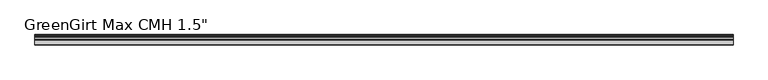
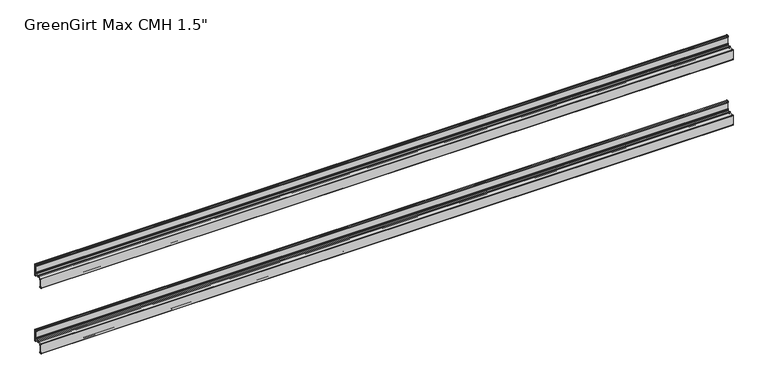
"""IFC4 building model written with IfcOpenShell, lengths in millimetres: fastener geometry."""

import ifcopenshell
import ifcopenshell.guid

model = None  # the IFC model being written
_history = None  # IfcOwnerHistory: only IFC2X3 demands one
_inside = {}  # id of a spatial element -> (the spatial element, [elements in it])
_under = {}  # id of a project, library or spatial element -> (it, [spatial elements below it])
_declared = {}  # id of a project -> (the project, [libraries it declares])
_typed = {}  # id of a type object -> (the type object, [elements of that type])
_made_of = {}  # id of a material, layer set ... -> (it, [elements and type objects made of it])


def new_model(schema):
    """Start an empty IFC model of exactly this schema.

    Asked for "IFC4X3", IfcOpenShell would pick the latest addendum, in which some entities
    have other attributes; the version numbers below select the first issue.
    IFC2X3 requires an IfcOwnerHistory on every rooted entity: one is made here for all.
    """
    global model, _history
    if schema == "IFC4X3":
        model = ifcopenshell.file(schema_version=(4, 3, 0, 0))
    else:
        model = ifcopenshell.file(schema=schema)
    _inside.clear()
    _under.clear()
    _declared.clear()
    _typed.clear()
    _made_of.clear()
    _history = None
    if model.schema == "IFC2X3":
        org = make("IfcOrganization", Name="unknown")
        user = make(
            "IfcPersonAndOrganization",
            ThePerson=make("IfcPerson", FamilyName="unknown"),
            TheOrganization=org,
        )
        app = make(
            "IfcApplication",
            ApplicationDeveloper=org,
            Version="unknown",
            ApplicationFullName="unknown",
            ApplicationIdentifier="unknown",
        )
        _history = make(
            "IfcOwnerHistory",
            OwningUser=user,
            OwningApplication=app,
            ChangeAction="ADDED",
            CreationDate=0,
        )
    return model


def make(cls, **values):
    """One entity of the class cls with the attributes given. An attribute that is None is left unset."""
    return model.create_entity(
        cls, **{name: value for name, value in values.items() if value is not None}
    )


def rooted(cls, **values):
    """An entity with a GlobalId (a new one), such as an element, a storey or a relation."""
    return make(cls, GlobalId=ifcopenshell.guid.new(), OwnerHistory=_history, **values)


def si_unit(unit_type, name, prefix=None):
    """IfcSIUnit, for example si_unit("LENGTHUNIT", "METRE", prefix="MILLI")."""
    return make("IfcSIUnit", UnitType=unit_type, Prefix=prefix, Name=name)


def assignment(units):
    """IfcUnitAssignment: the units of a project."""
    return None if units is None else make("IfcUnitAssignment", Units=units)


def point(xyz):
    """IfcCartesianPoint."""
    return None if xyz is None else make("IfcCartesianPoint", Coordinates=xyz)


def direction(xyz):
    """IfcDirection."""
    return None if xyz is None else make("IfcDirection", DirectionRatios=xyz)


def frame(location, z_axis=None, x_axis=None):
    """IfcAxis2Placement3D, a coordinate frame: its origin and axes. An axis left out is left unset."""
    return make(
        "IfcAxis2Placement3D",
        Location=point(location),
        Axis=direction(z_axis),
        RefDirection=direction(x_axis),
    )


def origin():
    """The frame at (0, 0, 0) with its axes left unset."""
    return frame((0.0, 0.0, 0.0))


def place(relative_to, where):
    """IfcLocalPlacement: puts the frame where relative to a parent placement (None: the world)."""
    return make(
        "IfcLocalPlacement", PlacementRelTo=relative_to, RelativePlacement=where
    )


def context(
    kind, dimensions, precision=None, world=None, true_north=None, identifier=None
):
    """IfcGeometricRepresentationContext, for example the 3D "Model" context."""
    return make(
        "IfcGeometricRepresentationContext",
        ContextIdentifier=identifier,
        ContextType=kind,
        CoordinateSpaceDimension=dimensions,
        Precision=precision,
        WorldCoordinateSystem=world,
        TrueNorth=true_north,
    )


def project(units=None, contexts=None):
    """IfcProject with its units and contexts."""
    return rooted(
        "IfcProject",
        Name="project",
        RepresentationContexts=contexts,
        UnitsInContext=assignment(units),
    )


def spatial(cls, under=None, at=None, **own):
    """A site, building, storey or space (cls), placed at a placement, below another one or the project."""
    s = rooted(cls, ObjectPlacement=at, **own)
    if under is not None:
        _under.setdefault(under.id(), (under, []))[1].append(s)
    return s


def polyline(points):
    """IfcPolyline through the points."""
    return make("IfcPolyline", Points=[point(p) for p in points])


def circle_curve(where, radius):
    """IfcCircle in the frame where."""
    return make("IfcCircle", Position=where, Radius=radius)


def outline(outer, holes=None, kind="AREA"):
    """IfcArbitraryClosedProfileDef: a profile drawn as a closed curve; with holes, ...WithVoids."""
    if holes is None:
        return make("IfcArbitraryClosedProfileDef", ProfileType=kind, OuterCurve=outer)
    return make(
        "IfcArbitraryProfileDefWithVoids",
        ProfileType=kind,
        OuterCurve=outer,
        InnerCurves=holes,
    )


def extrude(swept, where, along, depth):
    """IfcExtrudedAreaSolid: the profile swept, set in the frame where, extruded along a direction by depth."""
    return make(
        "IfcExtrudedAreaSolid",
        SweptArea=swept,
        Position=where,
        ExtrudedDirection=direction(along),
        Depth=depth,
    )


def shape(context_of_items, identifier, shape_type, items):
    """IfcShapeRepresentation: the items that make up one representation, for example the "Body"."""
    return make(
        "IfcShapeRepresentation",
        ContextOfItems=context_of_items,
        RepresentationIdentifier=identifier,
        RepresentationType=shape_type,
        Items=items,
    )


def source(mapping_origin, context_of_items, identifier, shape_type, items):
    """IfcRepresentationMap: a shape defined once, which mapped items show again and again."""
    return make(
        "IfcRepresentationMap",
        MappingOrigin=mapping_origin,
        MappedRepresentation=shape(context_of_items, identifier, shape_type, items),
    )


def transform(
    local_origin,
    x_axis=None,
    y_axis=None,
    z_axis=None,
    scale=None,
    scale2=None,
    scale3=None,
    uniform=True,
):
    """IfcCartesianTransformationOperator3D, or its non-uniform kind. x_axis, y_axis, z_axis: its Axis1, 2, 3."""
    if uniform:
        return make(
            "IfcCartesianTransformationOperator3D",
            Axis1=direction(x_axis),
            Axis2=direction(y_axis),
            LocalOrigin=point(local_origin),
            Scale=scale,
            Axis3=direction(z_axis),
        )
    return make(
        "IfcCartesianTransformationOperator3DnonUniform",
        Axis1=direction(x_axis),
        Axis2=direction(y_axis),
        LocalOrigin=point(local_origin),
        Scale=scale,
        Axis3=direction(z_axis),
        Scale2=scale2,
        Scale3=scale3,
    )


def mapped(mapping_source, mapping_target):
    """IfcMappedItem: shows the shape of a source again, moved by a transform."""
    return make(
        "IfcMappedItem", MappingSource=mapping_source, MappingTarget=mapping_target
    )


def made_of(thing, what):
    """Note that an element or type object is made of a material, layer set ...; save() writes the relation."""
    if what is not None:
        _made_of.setdefault(what.id(), (what, []))[1].append(thing)
    return thing


def element(
    cls,
    number,
    at=None,
    inside=None,
    cuts=None,
    type_object=None,
    material=None,
    context=None,
    identifier="Body",
    shape_type=None,
    held_by="IfcProductDefinitionShape",
    body=None,
    shapes=None,
    **own,
):
    """One element of the class cls, such as IfcWall. Its Tag is "e" and its number.

    at: its placement. inside: the storey or other place that contains it. cuts: it is an
    opening in that element (IfcRelVoidsElement). A single representation is given by context,
    identifier, shape_type and body (its items); several are given by shapes. held_by: the class
    of the entity that holds the representations. save() writes the other relations.
    """
    e = rooted(cls, Tag="e%d" % number, ObjectPlacement=at, **own)
    if body is not None:
        shapes = [shape(context, identifier, shape_type, body)]
    if shapes is not None:
        e.Representation = make(held_by, Representations=shapes)
    if inside is not None:
        _inside.setdefault(inside.id(), (inside, []))[1].append(e)
    if cuts is not None:
        rooted(
            "IfcRelVoidsElement", RelatingBuildingElement=cuts, RelatedOpeningElement=e
        )
    if type_object is not None:
        _typed.setdefault(type_object.id(), (type_object, []))[1].append(e)
    return made_of(e, material)


def aggregate(whole, parts):
    """IfcRelAggregates: a whole, such as a stair, and the parts it consists of."""
    return rooted("IfcRelAggregates", RelatingObject=whole, RelatedObjects=parts)


def save(model, path):
    """Write the relations noted so far, then the file.

    IfcRelAggregates (storeys below a building ...), IfcRelContainedInSpatialStructure (elements
    in a storey), IfcRelDefinesByType, IfcRelAssociatesMaterial and IfcRelDeclares: one each for
    every whole, place, type object, material and project.
    """
    for whole, parts in _under.values():
        aggregate(whole, parts)
    for where, things in _inside.values():
        rooted(
            "IfcRelContainedInSpatialStructure",
            RelatedElements=things,
            RelatingStructure=where,
        )
    for kind, things in _typed.values():
        rooted("IfcRelDefinesByType", RelatedObjects=things, RelatingType=kind)
    for what, things in _made_of.values():
        rooted("IfcRelAssociatesMaterial", RelatedObjects=things, RelatingMaterial=what)
    for by, libraries in _declared.values():
        rooted("IfcRelDeclares", RelatingContext=by, RelatedDefinitions=libraries)
    model.write(path)


def plane_surface(at):
    """IfcPlane: the flat surface through the origin of the frame at, square to its z axis."""
    return make("IfcPlane", Position=at)


def cylinder_surface(at, radius):
    """IfcCylindricalSurface: all points at the distance radius from the z axis of the frame at."""
    return make("IfcCylindricalSurface", Position=at, Radius=radius)


def revolved_surface(curve, axis_point, axis_direction):
    """IfcSurfaceOfRevolution: the curve turned about the line through axis_point along axis_direction."""
    return make(
        "IfcSurfaceOfRevolution",
        SweptCurve=make("IfcArbitraryOpenProfileDef", ProfileType="CURVE", Curve=curve),
        AxisPosition=make("IfcAxis1Placement", Location=point(axis_point), Axis=direction(axis_direction)),
    )


def advanced_brep(points, edges, surfaces, faces):
    """IfcAdvancedBrep: a solid bounded by faces that lie on surfaces and meet in shared edges.

    An edge is (start, end): straight between two places in points (the first is 0);
    or (start, end, curve); or (start, end, curve, False) where it runs against its curve.
    A face is (place in surfaces, loops), or (place, loops, False) where it looks against
    its surface's normal. A loop lists edges by number (the first is 1), with a minus sign
    where the edge is run from its end to its start. The first loop is the outer one.
    """
    corners = [point(p) for p in points]
    vertices = [make("IfcVertexPoint", VertexGeometry=c) for c in corners]
    made = []
    for start, end, *more in edges:
        made.append(
            make(
                "IfcEdgeCurve",
                EdgeStart=vertices[start],
                EdgeEnd=vertices[end],
                EdgeGeometry=more[0] if more else make("IfcPolyline", Points=[corners[start], corners[end]]),
                SameSense=more[1] if len(more) > 1 else True,
            )
        )
    hull = []
    for where, loops, *sense in faces:
        bounds = []
        for j, loop in enumerate(loops):
            ring = [make("IfcOrientedEdge", EdgeElement=made[abs(k) - 1], Orientation=k > 0) for k in loop]
            bounds.append(
                make(
                    "IfcFaceOuterBound" if j == 0 else "IfcFaceBound",
                    Bound=make("IfcEdgeLoop", EdgeList=ring),
                    Orientation=True,
                )
            )
        hull.append(make("IfcAdvancedFace", Bounds=bounds, FaceSurface=surfaces[where], SameSense=sense[0] if sense else True))
    return make("IfcAdvancedBrep", Outer=make("IfcClosedShell", CfsFaces=hull))


def fastener_bf1eb5b9(model_context):
    return source(origin(), model_context, "Body", "SolidModel", [
        advanced_brep(
        [(2540.1186361, -3.556, 1898.269), (2540.1186361, -3.556, 1867.281), (2540.1186361, -5.2832, 1867.281), (2540.1186361, -5.2832, 1871.472), (2540.1186361, -7.3152, 1871.472), (2540.1186361, -7.3152, 1867.281), (2540.1186361, -8.0772, 1866.519), (2540.1186361, -17.7601563, 1866.519), (2540.1186361, -17.7601563, 1867.3674433), (2540.1186361, -20.4288947, 1867.3674433), (2540.1186361, -20.4288947, 1866.519), (2540.1186361, -37.3379766, 1866.519), (2540.1186361, -38.0999766, 1865.757), (2540.1186361, -38.1, 1829.5196758), (2540.1186361, -37.3379766, 1828.8), (2540.1186361, -33.7057766, 1828.8), (2540.1186361, -31.6737766, 1830.832), (2540.1186361, -31.6737766, 1833.118), (2540.1186361, -33.7057766, 1833.118), (2540.1186361, -33.7057766, 1832.102), (2540.1186361, -35.4329766, 1832.102), (2540.1186361, -35.4329766, 1863.09), (2540.1186361, -33.7057766, 1863.09), (2540.1186361, -33.7057766, 1858.899), (2540.1186361, -31.6737766, 1858.899), (2540.1186361, -31.6737766, 1863.09), (2540.1186361, -30.9117766, 1863.852), (2540.1186361, -20.4279799, 1863.852), (2540.1186361, -20.4279799, 1863.0030993), (2540.1186361, -17.7601563, 1863.0030993), (2540.1186361, -17.7601563, 1863.852), (2540.1186361, -3.429, 1863.852), (2540.1186361, -2.667, 1863.09), (2540.1186361, -2.667, 1856.994), (2540.1186361, 0.0, 1856.994), (2540.1186361, 0.0, 1900.809), (2540.1186361, -0.762, 1901.571), (2540.1186361, -5.2832, 1901.571), (2540.1186361, -7.3152, 1899.539), (2540.1186361, -7.3152, 1897.253), (2540.1186361, -5.2832, 1897.253), (2540.1186361, -5.2832, 1898.269), (0.0, -3.556, 1898.269), (0.0, -5.2832, 1898.269), (0.0, -5.2832, 1897.253), (0.0, -7.3152, 1897.253), (0.0, -7.3152, 1899.539), (0.0, -5.2832, 1901.571), (0.0, -0.762, 1901.571), (0.0, 0.0, 1900.809), (0.0, 0.0, 1856.994), (0.0, -2.667, 1856.994), (0.0, -2.667, 1863.09), (0.0, -3.429, 1863.852), (0.0, -17.7601563, 1863.852), (0.0, -17.7601563, 1863.0030993), (0.0, -20.4279799, 1863.0030993), (0.0, -20.4279799, 1863.852), (0.0, -30.9117766, 1863.852), (0.0, -31.6737766, 1863.09), (0.0, -31.6737766, 1858.899), (0.0, -33.7057766, 1858.899), (0.0, -33.7057766, 1863.09), (0.0, -35.4329766, 1863.09), (0.0, -35.4329766, 1832.102), (0.0, -33.7057766, 1832.102), (0.0, -33.7057766, 1833.118), (0.0, -31.6737766, 1833.118), (0.0, -31.6737766, 1830.832), (0.0, -33.7057766, 1828.8), (0.0, -37.3379766, 1828.8), (0.0, -38.0999766, 1829.562), (0.0, -38.1, 1865.6242174), (0.0, -37.3379766, 1866.519), (0.0, -20.4288947, 1866.519), (0.0, -20.4288947, 1867.3674433), (0.0, -17.7601563, 1867.3674433), (0.0, -17.7601563, 1866.519), (0.0, -8.0772, 1866.519), (0.0, -7.3152, 1867.281), (0.0, -7.3152, 1871.472), (0.0, -5.2832, 1871.472), (0.0, -5.2832, 1867.281), (0.0, -3.556, 1867.281)],
        [
            (0, 1),
            (1, 2, circle_curve(frame((2540.1186361, -4.4196, 1867.281), z_axis=(-1.0, 0.0, 0.0), x_axis=(0.0, 1.0, 0.0)), 0.8636)),
            (2, 3),
            (3, 4, circle_curve(frame((2540.1186361, -6.2992, 1871.472), z_axis=(1.0, 0.0, 0.0), x_axis=(0.0, 1.0, 0.0)), 1.016)),
            (4, 5),
            (5, 6, circle_curve(frame((2540.1186361, -8.0772, 1867.281), z_axis=(-1.0, 0.0, 0.0), x_axis=(0.0, 1.0, 0.0)), 0.762)),
            (6, 7),
            (7, 8),
            (8, 9, circle_curve(frame((2540.1186361, -19.0945255, 1867.3674433), z_axis=(1.0, 0.0, 0.0), x_axis=(0.0, 1.0, 0.0)), 1.3343692)),
            (9, 10),
            (10, 11),
            (11, 12, circle_curve(frame((2540.1186361, -37.3379766, 1865.757), z_axis=(1.0, 0.0, 0.0), x_axis=(0.0, 1.0, 0.0)), 0.762)),
            (12, 13),
            (13, 14, circle_curve(frame((2540.1186361, -37.3379766, 1829.562), z_axis=(1.0, 0.0, 0.0), x_axis=(0.0, 1.0, 0.0)), 0.762)),
            (14, 15),
            (15, 16, circle_curve(frame((2540.1186361, -33.7057766, 1830.832), z_axis=(1.0, 0.0, 0.0), x_axis=(0.0, 1.0, 0.0)), 2.032)),
            (16, 17),
            (17, 18, circle_curve(frame((2540.1186361, -32.6897766, 1833.118), z_axis=(1.0, 0.0, 0.0), x_axis=(0.0, 1.0, 0.0)), 1.016)),
            (18, 19),
            (19, 20, circle_curve(frame((2540.1186361, -34.5693766, 1832.102), z_axis=(-1.0, 0.0, 0.0), x_axis=(0.0, 1.0, 0.0)), 0.8636)),
            (20, 21),
            (21, 22, circle_curve(frame((2540.1186361, -34.5693766, 1863.09), z_axis=(-1.0, 0.0, 0.0), x_axis=(0.0, 1.0, 0.0)), 0.8636)),
            (22, 23),
            (23, 24, circle_curve(frame((2540.1186361, -32.6897766, 1858.899), z_axis=(1.0, 0.0, 0.0), x_axis=(0.0, 1.0, 0.0)), 1.016)),
            (24, 25),
            (25, 26, circle_curve(frame((2540.1186361, -30.9117766, 1863.09), z_axis=(-1.0, 0.0, 0.0), x_axis=(0.0, 1.0, 0.0)), 0.762)),
            (26, 27),
            (27, 28),
            (28, 29, circle_curve(frame((2540.1186361, -19.0940681, 1863.0030993), z_axis=(1.0, 0.0, 0.0), x_axis=(0.0, 1.0, 0.0)), 1.3339118)),
            (29, 30),
            (30, 31),
            (31, 32, circle_curve(frame((2540.1186361, -3.429, 1863.09), z_axis=(-1.0, 0.0, 0.0), x_axis=(0.0, 1.0, 0.0)), 0.762)),
            (32, 33),
            (33, 34, circle_curve(frame((2540.1186361, -1.3335, 1856.994), z_axis=(1.0, 0.0, 0.0), x_axis=(0.0, 1.0, 0.0)), 1.3335)),
            (34, 35),
            (35, 36, circle_curve(frame((2540.1186361, -0.762, 1900.809), z_axis=(1.0, 0.0, 0.0), x_axis=(0.0, 1.0, 0.0)), 0.762)),
            (36, 37),
            (37, 38, circle_curve(frame((2540.1186361, -5.2832, 1899.539), z_axis=(1.0, 0.0, 0.0), x_axis=(0.0, 1.0, 0.0)), 2.032)),
            (38, 39),
            (39, 40, circle_curve(frame((2540.1186361, -6.2992, 1897.253), z_axis=(1.0, 0.0, 0.0), x_axis=(0.0, 1.0, 0.0)), 1.016)),
            (40, 41),
            (41, 0, circle_curve(frame((2540.1186361, -4.4196, 1898.269), z_axis=(-1.0, 0.0, 0.0), x_axis=(0.0, 1.0, 0.0)), 0.8636)),
            (42, 43, circle_curve(frame((0.0, -4.4196, 1898.269), z_axis=(1.0, 0.0, 0.0), x_axis=(0.0, 1.0, 0.0)), 0.8636)),
            (43, 44),
            (44, 45, circle_curve(frame((0.0, -6.2992, 1897.253), z_axis=(-1.0, 0.0, 0.0), x_axis=(0.0, 1.0, 0.0)), 1.016)),
            (45, 46),
            (46, 47, circle_curve(frame((0.0, -5.2832, 1899.539), z_axis=(-1.0, 0.0, 0.0), x_axis=(0.0, 1.0, 0.0)), 2.032)),
            (47, 48),
            (48, 49, circle_curve(frame((0.0, -0.762, 1900.809), z_axis=(-1.0, 0.0, 0.0), x_axis=(0.0, 1.0, 0.0)), 0.762)),
            (49, 50),
            (50, 51, circle_curve(frame((0.0, -1.3335, 1856.994), z_axis=(-1.0, 0.0, 0.0), x_axis=(0.0, 1.0, 0.0)), 1.3335)),
            (51, 52),
            (52, 53, circle_curve(frame((0.0, -3.429, 1863.09), z_axis=(1.0, 0.0, 0.0), x_axis=(0.0, 1.0, 0.0)), 0.762)),
            (53, 54),
            (54, 55),
            (55, 56, circle_curve(frame((0.0, -19.0940681, 1863.0030993), z_axis=(-1.0, 0.0, 0.0), x_axis=(0.0, 1.0, 0.0)), 1.3339118)),
            (56, 57),
            (57, 58),
            (58, 59, circle_curve(frame((0.0, -30.9117766, 1863.09), z_axis=(1.0, 0.0, 0.0), x_axis=(0.0, 1.0, 0.0)), 0.762)),
            (59, 60),
            (60, 61, circle_curve(frame((0.0, -32.6897766, 1858.899), z_axis=(-1.0, 0.0, 0.0), x_axis=(0.0, 1.0, 0.0)), 1.016)),
            (61, 62),
            (62, 63, circle_curve(frame((0.0, -34.5693766, 1863.09), z_axis=(1.0, 0.0, 0.0), x_axis=(0.0, 1.0, 0.0)), 0.8636)),
            (63, 64),
            (64, 65, circle_curve(frame((0.0, -34.5693766, 1832.102), z_axis=(1.0, 0.0, 0.0), x_axis=(0.0, 1.0, 0.0)), 0.8636)),
            (65, 66),
            (66, 67, circle_curve(frame((0.0, -32.6897766, 1833.118), z_axis=(-1.0, 0.0, 0.0), x_axis=(0.0, 1.0, 0.0)), 1.016)),
            (67, 68),
            (68, 69, circle_curve(frame((0.0, -33.7057766, 1830.832), z_axis=(-1.0, 0.0, 0.0), x_axis=(0.0, 1.0, 0.0)), 2.032)),
            (69, 70),
            (70, 71, circle_curve(frame((0.0, -37.3379766, 1829.562), z_axis=(-1.0, 0.0, 0.0), x_axis=(0.0, 1.0, 0.0)), 0.762)),
            (71, 72),
            (72, 73, circle_curve(frame((0.0, -37.3379766, 1865.757), z_axis=(-1.0, 0.0, 0.0), x_axis=(0.0, 1.0, 0.0)), 0.762)),
            (73, 74),
            (74, 75),
            (75, 76, circle_curve(frame((0.0, -19.0945255, 1867.3674433), z_axis=(-1.0, 0.0, 0.0), x_axis=(0.0, 1.0, 0.0)), 1.3343692)),
            (76, 77),
            (77, 78),
            (78, 79, circle_curve(frame((0.0, -8.0772, 1867.281), z_axis=(1.0, 0.0, 0.0), x_axis=(0.0, 1.0, 0.0)), 0.762)),
            (79, 80),
            (80, 81, circle_curve(frame((0.0, -6.2992, 1871.472), z_axis=(-1.0, 0.0, 0.0), x_axis=(0.0, 1.0, 0.0)), 1.016)),
            (81, 82),
            (82, 83, circle_curve(frame((0.0, -4.4196, 1867.281), z_axis=(1.0, 0.0, 0.0), x_axis=(0.0, 1.0, 0.0)), 0.8636)),
            (83, 42),
            (0, 42),
            (83, 1),
            (82, 2),
            (81, 3),
            (80, 4),
            (79, 5),
            (78, 6),
            (77, 7),
            (76, 8),
            (75, 9),
            (74, 10),
            (73, 11),
            (72, 12),
            (71, 13),
            (70, 14),
            (69, 15),
            (68, 16),
            (67, 17),
            (66, 18),
            (65, 19),
            (64, 20),
            (63, 21),
            (62, 22),
            (61, 23),
            (60, 24),
            (59, 25),
            (58, 26),
            (57, 27),
            (56, 28),
            (55, 29),
            (54, 30),
            (53, 31),
            (52, 32),
            (51, 33),
            (50, 34),
            (49, 35),
            (48, 36),
            (47, 37),
            (46, 38),
            (45, 39),
            (44, 40),
            (43, 41),
        ],
        [
            plane_surface(frame((2540.1186361, -3.556, 1867.281), z_axis=(1.0, 0.0, 0.0), x_axis=(0.0, 0.0, -1.0))),
            plane_surface(frame((0.0, -3.556, 1867.281), z_axis=(-1.0, 0.0, 0.0), x_axis=(0.0, 0.0, 1.0))),
            plane_surface(frame((2540.1186361, -3.556, 1898.269), z_axis=(0.0, -1.0, 0.0), x_axis=(-1.0, 0.0, 0.0))),
            revolved_surface(polyline([(0.0, -3.556, 1867.281), (2540.1186361, -3.556, 1867.281)]), (0.0, -4.4196, 1867.281), (-1.0, 0.0, 0.0)),
            plane_surface(frame((2540.1186361, -5.2832, 1867.281), z_axis=(0.0, 1.0, 0.0), x_axis=(-1.0, 0.0, 0.0))),
            cylinder_surface(frame((0.0, -6.2992, 1871.472), z_axis=(1.0, 0.0, 0.0), x_axis=(0.0, 1.0, 0.0)), 1.016),
            plane_surface(frame((2540.1186361, -7.3152, 1871.472), z_axis=(0.0, -1.0, 0.0), x_axis=(-1.0, 0.0, 0.0))),
            revolved_surface(polyline([(0.0, -7.315199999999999, 1867.281), (2540.1186361, -7.315199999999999, 1867.281)]), (0.0, -8.0772, 1867.281), (-1.0, 0.0, 0.0)),
            plane_surface(frame((2540.1186361, -8.0772, 1866.519), z_axis=(0.0, 0.0, 1.0), x_axis=(-1.0, 0.0, 0.0))),
            plane_surface(frame((2540.1186361, -17.7601563, 1866.519), z_axis=(0.0, 1.0, 0.0), x_axis=(-1.0, 0.0, 0.0))),
            cylinder_surface(frame((0.0, -19.0945255, 1867.3674433), z_axis=(1.0, 0.0, 0.0), x_axis=(0.0, 1.0, 0.0)), 1.3343692),
            plane_surface(frame((2540.1186361, -20.4288947, 1867.3674433), z_axis=(0.0, -1.0, 0.0), x_axis=(-1.0, 0.0, 0.0))),
            plane_surface(frame((2540.1186361, -20.4288947, 1866.519), z_axis=(0.0, 0.0, 1.0), x_axis=(-1.0, 0.0, 0.0))),
            cylinder_surface(frame((0.0, -37.3379766, 1865.757), z_axis=(1.0, 0.0, 0.0), x_axis=(0.0, 1.0, 0.0)), 0.762),
            plane_surface(frame((2540.1186361, -38.1, 1865.6242174), z_axis=(0.0, -1.0, 0.0), x_axis=(-1.0, 0.0, 0.0))),
            cylinder_surface(frame((0.0, -37.3379766, 1829.562), z_axis=(1.0, 0.0, 0.0), x_axis=(0.0, 1.0, 0.0)), 0.762),
            plane_surface(frame((2540.1186361, -37.3379766, 1828.8), z_axis=(0.0, 1.080720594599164e-12, -1.0), x_axis=(-1.0, 0.0, 0.0))),
            cylinder_surface(frame((0.0, -33.7057766, 1830.832), z_axis=(1.0, 0.0, 0.0), x_axis=(0.0, 1.0, 0.0)), 2.032),
            plane_surface(frame((2540.1186361, -31.6737766, 1830.832), z_axis=(0.0, 1.0, 0.0), x_axis=(-1.0, 0.0, 0.0))),
            cylinder_surface(frame((0.0, -32.6897766, 1833.118), z_axis=(1.0, 0.0, 0.0), x_axis=(0.0, 1.0, 0.0)), 1.016),
            plane_surface(frame((2540.1186361, -33.7057766, 1833.118), z_axis=(0.0, -1.0, 0.0), x_axis=(-1.0, 0.0, 0.0))),
            revolved_surface(polyline([(0.0, -33.7057766, 1832.102), (2540.1186361, -33.7057766, 1832.102)]), (0.0, -34.5693766, 1832.102), (-1.0, 0.0, 0.0)),
            plane_surface(frame((2540.1186361, -35.4329766, 1832.102), z_axis=(0.0, 1.0, 0.0), x_axis=(-1.0, 0.0, 0.0))),
            revolved_surface(polyline([(0.0, -33.7057766, 1863.09), (2540.1186361, -33.7057766, 1863.09)]), (0.0, -34.5693766, 1863.09), (-1.0, 0.0, 0.0)),
            plane_surface(frame((2540.1186361, -33.7057766, 1863.09), z_axis=(0.0, -1.0, 0.0), x_axis=(-1.0, 0.0, 0.0))),
            cylinder_surface(frame((0.0, -32.6897766, 1858.899), z_axis=(1.0, 0.0, 0.0), x_axis=(0.0, 1.0, 0.0)), 1.016),
            plane_surface(frame((2540.1186361, -31.6737766, 1858.899), z_axis=(0.0, 1.0, 0.0), x_axis=(-1.0, 0.0, 0.0))),
            revolved_surface(polyline([(0.0, -30.1497766, 1863.09), (2540.1186361, -30.1497766, 1863.09)]), (0.0, -30.9117766, 1863.09), (-1.0, 0.0, 0.0)),
            plane_surface(frame((2540.1186361, -30.9117766, 1863.852), z_axis=(0.0, 0.0, -1.0), x_axis=(-1.0, 0.0, 0.0))),
            plane_surface(frame((2540.1186361, -20.4279799, 1863.852), z_axis=(0.0, -1.0, 0.0), x_axis=(-1.0, 0.0, 0.0))),
            cylinder_surface(frame((0.0, -19.0940681, 1863.0030993), z_axis=(1.0, 0.0, 0.0), x_axis=(0.0, 1.0, 0.0)), 1.3339118),
            plane_surface(frame((2540.1186361, -17.7601563, 1863.0030993), z_axis=(0.0, 1.0, 0.0), x_axis=(-1.0, 0.0, 0.0))),
            plane_surface(frame((2540.1186361, -17.7601563, 1863.852), z_axis=(0.0, 0.0, -1.0), x_axis=(-1.0, 0.0, 0.0))),
            revolved_surface(polyline([(0.0, -2.667, 1863.09), (2540.1186361, -2.667, 1863.09)]), (0.0, -3.429, 1863.09), (-1.0, 0.0, 0.0)),
            plane_surface(frame((2540.1186361, -2.667, 1863.09), z_axis=(0.0, -1.0, 0.0), x_axis=(-1.0, 0.0, 0.0))),
            cylinder_surface(frame((0.0, -1.3335, 1856.994), z_axis=(1.0, 0.0, 0.0), x_axis=(0.0, 1.0, 0.0)), 1.3335),
            plane_surface(frame((2540.1186361, 0.0, 1856.994), z_axis=(0.0, 1.0, 0.0), x_axis=(-1.0, 0.0, 0.0))),
            cylinder_surface(frame((0.0, -0.762, 1900.809), z_axis=(1.0, 0.0, 0.0), x_axis=(0.0, 1.0, 0.0)), 0.762),
            plane_surface(frame((2540.1186361, -0.762, 1901.571), z_axis=(0.0, 1.6915308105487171e-12, 1.0), x_axis=(-1.0, 0.0, 0.0))),
            cylinder_surface(frame((0.0, -5.2832, 1899.539), z_axis=(1.0, 0.0, 0.0), x_axis=(0.0, 1.0, 0.0)), 2.032),
            plane_surface(frame((2540.1186361, -7.3152, 1899.539), z_axis=(0.0, -1.0, 0.0), x_axis=(-1.0, 0.0, 0.0))),
            cylinder_surface(frame((0.0, -6.2992, 1897.253), z_axis=(1.0, 0.0, 0.0), x_axis=(0.0, 1.0, 0.0)), 1.016),
            plane_surface(frame((2540.1186361, -5.2832, 1897.253), z_axis=(0.0, 1.0, 0.0), x_axis=(-1.0, 0.0, 0.0))),
            revolved_surface(polyline([(0.0, -3.556, 1898.269), (2540.1186361, -3.556, 1898.269)]), (0.0, -4.4196, 1898.269), (-1.0, 0.0, 0.0)),
        ],
        [
            (0, [[1, 2, 3, 4, 5, 6, 7, 8, 9, 10, 11, 12, 13, 14, 15, 16, 17, 18, 19, 20, 21, 22, 23, 24, 25, 26, 27, 28, 29, 30, 31, 32, 33, 34, 35, 36, 37, 38, 39, 40, 41, 42]]),
            (1, [[43, 44, 45, 46, 47, 48, 49, 50, 51, 52, 53, 54, 55, 56, 57, 58, 59, 60, 61, 62, 63, 64, 65, 66, 67, 68, 69, 70, 71, 72, 73, 74, 75, 76, 77, 78, 79, 80, 81, 82, 83, 84]]),
            (2, [[-1, 85, -84, 86]]),
            (3, [[-2, -86, -83, 87]]),
            (4, [[-3, -87, -82, 88]]),
            (5, [[-4, -88, -81, 89]]),
            (6, [[-5, -89, -80, 90]]),
            (7, [[-6, -90, -79, 91]]),
            (8, [[-7, -91, -78, 92]]),
            (9, [[-8, -92, -77, 93]]),
            (10, [[-9, -93, -76, 94]]),
            (11, [[-10, -94, -75, 95]]),
            (12, [[-11, -95, -74, 96]]),
            (13, [[-12, -96, -73, 97]]),
            (14, [[-13, -97, -72, 98]]),
            (15, [[-14, -98, -71, 99]]),
            (16, [[-15, -99, -70, 100]]),
            (17, [[-16, -100, -69, 101]]),
            (18, [[-17, -101, -68, 102]]),
            (19, [[-18, -102, -67, 103]]),
            (20, [[-19, -103, -66, 104]]),
            (21, [[-20, -104, -65, 105]]),
            (22, [[-21, -105, -64, 106]]),
            (23, [[-22, -106, -63, 107]]),
            (24, [[-23, -107, -62, 108]]),
            (25, [[-24, -108, -61, 109]]),
            (26, [[-25, -109, -60, 110]]),
            (27, [[-26, -110, -59, 111]]),
            (28, [[-27, -111, -58, 112]]),
            (29, [[-28, -112, -57, 113]]),
            (30, [[-29, -113, -56, 114]]),
            (31, [[-30, -114, -55, 115]]),
            (32, [[-31, -115, -54, 116]]),
            (33, [[-32, -116, -53, 117]]),
            (34, [[-33, -117, -52, 118]]),
            (35, [[-34, -118, -51, 119]]),
            (36, [[-35, -119, -50, 120]]),
            (37, [[-36, -120, -49, 121]]),
            (38, [[-37, -121, -48, 122]]),
            (39, [[-38, -122, -47, 123]]),
            (40, [[-39, -123, -46, 124]]),
            (41, [[-40, -124, -45, 125]]),
            (42, [[-41, -125, -44, 126]]),
            (43, [[-42, -126, -43, -85]]),
        ],
    ),
        extrude(outline(polyline([(2540.1186361, -3.556), (2540.1186361, -5.2832), (0.0, -5.2832), (0.0, -3.556), (2540.1186361, -3.556)])), frame((0.0, 0.0, 1867.281), z_axis=(0.0, 0.0, 1.0), x_axis=(1.0, 0.0, 0.0)), (0.0, 0.0, 1.0), 30.988),
        extrude(outline(polyline([(2540.1186361, -33.7057766), (2540.1186361, -35.4329766), (0.0, -35.4329766), (0.0, -33.7057766), (2540.1186361, -33.7057766)])), frame((0.0, 0.0, 1832.102), z_axis=(0.0, 0.0, 1.0), x_axis=(1.0, 0.0, 0.0)), (0.0, 0.0, 1.0), 30.988),
        advanced_brep(
        [(2540.1186361, -3.556, 1644.269), (2540.1186361, -3.556, 1613.281), (2540.1186361, -5.2832, 1613.281), (2540.1186361, -5.2832, 1617.472), (2540.1186361, -7.3152, 1617.472), (2540.1186361, -7.3152, 1613.281), (2540.1186361, -8.0772, 1612.519), (2540.1186361, -17.7601563, 1612.519), (2540.1186361, -17.7601563, 1613.3674433), (2540.1186361, -20.4288947, 1613.3674433), (2540.1186361, -20.4288947, 1612.519), (2540.1186361, -37.3379766, 1612.519), (2540.1186361, -38.0999766, 1611.757), (2540.1186361, -38.1, 1575.5196758), (2540.1186361, -37.3379766, 1574.8), (2540.1186361, -33.7057766, 1574.8), (2540.1186361, -31.6737766, 1576.832), (2540.1186361, -31.6737766, 1579.118), (2540.1186361, -33.7057766, 1579.118), (2540.1186361, -33.7057766, 1578.102), (2540.1186361, -35.4329766, 1578.102), (2540.1186361, -35.4329766, 1609.09), (2540.1186361, -33.7057766, 1609.09), (2540.1186361, -33.7057766, 1604.899), (2540.1186361, -31.6737766, 1604.899), (2540.1186361, -31.6737766, 1609.09), (2540.1186361, -30.9117766, 1609.852), (2540.1186361, -20.4279799, 1609.852), (2540.1186361, -20.4279799, 1609.0030993), (2540.1186361, -17.7601563, 1609.0030993), (2540.1186361, -17.7601563, 1609.852), (2540.1186361, -3.429, 1609.852), (2540.1186361, -2.667, 1609.09), (2540.1186361, -2.667, 1602.994), (2540.1186361, 0.0, 1602.994), (2540.1186361, 0.0, 1646.809), (2540.1186361, -0.762, 1647.571), (2540.1186361, -5.2832, 1647.571), (2540.1186361, -7.3152, 1645.539), (2540.1186361, -7.3152, 1643.253), (2540.1186361, -5.2832, 1643.253), (2540.1186361, -5.2832, 1644.269), (0.0, -3.556, 1644.269), (0.0, -5.2832, 1644.269), (0.0, -5.2832, 1643.253), (0.0, -7.3152, 1643.253), (0.0, -7.3152, 1645.539), (0.0, -5.2832, 1647.571), (0.0, -0.762, 1647.571), (0.0, 0.0, 1646.809), (0.0, 0.0, 1602.994), (0.0, -2.667, 1602.994), (0.0, -2.667, 1609.09), (0.0, -3.429, 1609.852), (0.0, -17.7601563, 1609.852), (0.0, -17.7601563, 1609.0030993), (0.0, -20.4279799, 1609.0030993), (0.0, -20.4279799, 1609.852), (0.0, -30.9117766, 1609.852), (0.0, -31.6737766, 1609.09), (0.0, -31.6737766, 1604.899), (0.0, -33.7057766, 1604.899), (0.0, -33.7057766, 1609.09), (0.0, -35.4329766, 1609.09), (0.0, -35.4329766, 1578.102), (0.0, -33.7057766, 1578.102), (0.0, -33.7057766, 1579.118), (0.0, -31.6737766, 1579.118), (0.0, -31.6737766, 1576.832), (0.0, -33.7057766, 1574.8), (0.0, -37.3379766, 1574.8), (0.0, -38.0999766, 1575.562), (0.0, -38.1, 1611.6242174), (0.0, -37.3379766, 1612.519), (0.0, -20.4288947, 1612.519), (0.0, -20.4288947, 1613.3674433), (0.0, -17.7601563, 1613.3674433), (0.0, -17.7601563, 1612.519), (0.0, -8.0772, 1612.519), (0.0, -7.3152, 1613.281), (0.0, -7.3152, 1617.472), (0.0, -5.2832, 1617.472), (0.0, -5.2832, 1613.281), (0.0, -3.556, 1613.281)],
        [
            (0, 1),
            (1, 2, circle_curve(frame((2540.1186361, -4.4196, 1613.281), z_axis=(-1.0, 0.0, 0.0), x_axis=(0.0, 1.0, 0.0)), 0.8636)),
            (2, 3),
            (3, 4, circle_curve(frame((2540.1186361, -6.2992, 1617.472), z_axis=(1.0, 0.0, 0.0), x_axis=(0.0, 1.0, 0.0)), 1.016)),
            (4, 5),
            (5, 6, circle_curve(frame((2540.1186361, -8.0772, 1613.281), z_axis=(-1.0, 0.0, 0.0), x_axis=(0.0, 1.0, 0.0)), 0.762)),
            (6, 7),
            (7, 8),
            (8, 9, circle_curve(frame((2540.1186361, -19.0945255, 1613.3674433), z_axis=(1.0, 0.0, 0.0), x_axis=(0.0, 1.0, 0.0)), 1.3343692)),
            (9, 10),
            (10, 11),
            (11, 12, circle_curve(frame((2540.1186361, -37.3379766, 1611.757), z_axis=(1.0, 0.0, 0.0), x_axis=(0.0, 1.0, 0.0)), 0.762)),
            (12, 13),
            (13, 14, circle_curve(frame((2540.1186361, -37.3379766, 1575.562), z_axis=(1.0, 0.0, 0.0), x_axis=(0.0, 1.0, 0.0)), 0.762)),
            (14, 15),
            (15, 16, circle_curve(frame((2540.1186361, -33.7057766, 1576.832), z_axis=(1.0, 0.0, 0.0), x_axis=(0.0, 1.0, 0.0)), 2.032)),
            (16, 17),
            (17, 18, circle_curve(frame((2540.1186361, -32.6897766, 1579.118), z_axis=(1.0, 0.0, 0.0), x_axis=(0.0, 1.0, 0.0)), 1.016)),
            (18, 19),
            (19, 20, circle_curve(frame((2540.1186361, -34.5693766, 1578.102), z_axis=(-1.0, 0.0, 0.0), x_axis=(0.0, 1.0, 0.0)), 0.8636)),
            (20, 21),
            (21, 22, circle_curve(frame((2540.1186361, -34.5693766, 1609.09), z_axis=(-1.0, 0.0, 0.0), x_axis=(0.0, 1.0, 0.0)), 0.8636)),
            (22, 23),
            (23, 24, circle_curve(frame((2540.1186361, -32.6897766, 1604.899), z_axis=(1.0, 0.0, 0.0), x_axis=(0.0, 1.0, 0.0)), 1.016)),
            (24, 25),
            (25, 26, circle_curve(frame((2540.1186361, -30.9117766, 1609.09), z_axis=(-1.0, 0.0, 0.0), x_axis=(0.0, 1.0, 0.0)), 0.762)),
            (26, 27),
            (27, 28),
            (28, 29, circle_curve(frame((2540.1186361, -19.0940681, 1609.0030993), z_axis=(1.0, 0.0, 0.0), x_axis=(0.0, 1.0, 0.0)), 1.3339118)),
            (29, 30),
            (30, 31),
            (31, 32, circle_curve(frame((2540.1186361, -3.429, 1609.09), z_axis=(-1.0, 0.0, 0.0), x_axis=(0.0, 1.0, 0.0)), 0.762)),
            (32, 33),
            (33, 34, circle_curve(frame((2540.1186361, -1.3335, 1602.994), z_axis=(1.0, 0.0, 0.0), x_axis=(0.0, 1.0, 0.0)), 1.3335)),
            (34, 35),
            (35, 36, circle_curve(frame((2540.1186361, -0.762, 1646.809), z_axis=(1.0, 0.0, 0.0), x_axis=(0.0, 1.0, 0.0)), 0.762)),
            (36, 37),
            (37, 38, circle_curve(frame((2540.1186361, -5.2832, 1645.539), z_axis=(1.0, 0.0, 0.0), x_axis=(0.0, 1.0, 0.0)), 2.032)),
            (38, 39),
            (39, 40, circle_curve(frame((2540.1186361, -6.2992, 1643.253), z_axis=(1.0, 0.0, 0.0), x_axis=(0.0, 1.0, 0.0)), 1.016)),
            (40, 41),
            (41, 0, circle_curve(frame((2540.1186361, -4.4196, 1644.269), z_axis=(-1.0, 0.0, 0.0), x_axis=(0.0, 1.0, 0.0)), 0.8636)),
            (42, 43, circle_curve(frame((0.0, -4.4196, 1644.269), z_axis=(1.0, 0.0, 0.0), x_axis=(0.0, 1.0, 0.0)), 0.8636)),
            (43, 44),
            (44, 45, circle_curve(frame((0.0, -6.2992, 1643.253), z_axis=(-1.0, 0.0, 0.0), x_axis=(0.0, 1.0, 0.0)), 1.016)),
            (45, 46),
            (46, 47, circle_curve(frame((0.0, -5.2832, 1645.539), z_axis=(-1.0, 0.0, 0.0), x_axis=(0.0, 1.0, 0.0)), 2.032)),
            (47, 48),
            (48, 49, circle_curve(frame((0.0, -0.762, 1646.809), z_axis=(-1.0, 0.0, 0.0), x_axis=(0.0, 1.0, 0.0)), 0.762)),
            (49, 50),
            (50, 51, circle_curve(frame((0.0, -1.3335, 1602.994), z_axis=(-1.0, 0.0, 0.0), x_axis=(0.0, 1.0, 0.0)), 1.3335)),
            (51, 52),
            (52, 53, circle_curve(frame((0.0, -3.429, 1609.09), z_axis=(1.0, 0.0, 0.0), x_axis=(0.0, 1.0, 0.0)), 0.762)),
            (53, 54),
            (54, 55),
            (55, 56, circle_curve(frame((0.0, -19.0940681, 1609.0030993), z_axis=(-1.0, 0.0, 0.0), x_axis=(0.0, 1.0, 0.0)), 1.3339118)),
            (56, 57),
            (57, 58),
            (58, 59, circle_curve(frame((0.0, -30.9117766, 1609.09), z_axis=(1.0, 0.0, 0.0), x_axis=(0.0, 1.0, 0.0)), 0.762)),
            (59, 60),
            (60, 61, circle_curve(frame((0.0, -32.6897766, 1604.899), z_axis=(-1.0, 0.0, 0.0), x_axis=(0.0, 1.0, 0.0)), 1.016)),
            (61, 62),
            (62, 63, circle_curve(frame((0.0, -34.5693766, 1609.09), z_axis=(1.0, 0.0, 0.0), x_axis=(0.0, 1.0, 0.0)), 0.8636)),
            (63, 64),
            (64, 65, circle_curve(frame((0.0, -34.5693766, 1578.102), z_axis=(1.0, 0.0, 0.0), x_axis=(0.0, 1.0, 0.0)), 0.8636)),
            (65, 66),
            (66, 67, circle_curve(frame((0.0, -32.6897766, 1579.118), z_axis=(-1.0, 0.0, 0.0), x_axis=(0.0, 1.0, 0.0)), 1.016)),
            (67, 68),
            (68, 69, circle_curve(frame((0.0, -33.7057766, 1576.832), z_axis=(-1.0, 0.0, 0.0), x_axis=(0.0, 1.0, 0.0)), 2.032)),
            (69, 70),
            (70, 71, circle_curve(frame((0.0, -37.3379766, 1575.562), z_axis=(-1.0, 0.0, 0.0), x_axis=(0.0, 1.0, 0.0)), 0.762)),
            (71, 72),
            (72, 73, circle_curve(frame((0.0, -37.3379766, 1611.757), z_axis=(-1.0, 0.0, 0.0), x_axis=(0.0, 1.0, 0.0)), 0.762)),
            (73, 74),
            (74, 75),
            (75, 76, circle_curve(frame((0.0, -19.0945255, 1613.3674433), z_axis=(-1.0, 0.0, 0.0), x_axis=(0.0, 1.0, 0.0)), 1.3343692)),
            (76, 77),
            (77, 78),
            (78, 79, circle_curve(frame((0.0, -8.0772, 1613.281), z_axis=(1.0, 0.0, 0.0), x_axis=(0.0, 1.0, 0.0)), 0.762)),
            (79, 80),
            (80, 81, circle_curve(frame((0.0, -6.2992, 1617.472), z_axis=(-1.0, 0.0, 0.0), x_axis=(0.0, 1.0, 0.0)), 1.016)),
            (81, 82),
            (82, 83, circle_curve(frame((0.0, -4.4196, 1613.281), z_axis=(1.0, 0.0, 0.0), x_axis=(0.0, 1.0, 0.0)), 0.8636)),
            (83, 42),
            (0, 42),
            (83, 1),
            (82, 2),
            (81, 3),
            (80, 4),
            (79, 5),
            (78, 6),
            (77, 7),
            (76, 8),
            (75, 9),
            (74, 10),
            (73, 11),
            (72, 12),
            (71, 13),
            (70, 14),
            (69, 15),
            (68, 16),
            (67, 17),
            (66, 18),
            (65, 19),
            (64, 20),
            (63, 21),
            (62, 22),
            (61, 23),
            (60, 24),
            (59, 25),
            (58, 26),
            (57, 27),
            (56, 28),
            (55, 29),
            (54, 30),
            (53, 31),
            (52, 32),
            (51, 33),
            (50, 34),
            (49, 35),
            (48, 36),
            (47, 37),
            (46, 38),
            (45, 39),
            (44, 40),
            (43, 41),
        ],
        [
            plane_surface(frame((2540.1186361, -3.556, 1613.281), z_axis=(1.0, 0.0, 0.0), x_axis=(0.0, 0.0, -1.0))),
            plane_surface(frame((0.0, -3.556, 1613.281), z_axis=(-1.0, 0.0, 0.0), x_axis=(0.0, 0.0, 1.0))),
            plane_surface(frame((2540.1186361, -3.556, 1644.269), z_axis=(0.0, -1.0, 0.0), x_axis=(-1.0, 0.0, 0.0))),
            revolved_surface(polyline([(0.0, -3.556, 1613.281), (2540.1186361, -3.556, 1613.281)]), (0.0, -4.4196, 1613.281), (-1.0, 0.0, 0.0)),
            plane_surface(frame((2540.1186361, -5.2832, 1613.281), z_axis=(0.0, 1.0, 0.0), x_axis=(-1.0, 0.0, 0.0))),
            cylinder_surface(frame((0.0, -6.2992, 1617.472), z_axis=(1.0, 0.0, 0.0), x_axis=(0.0, 1.0, 0.0)), 1.016),
            plane_surface(frame((2540.1186361, -7.3152, 1617.472), z_axis=(0.0, -1.0, 0.0), x_axis=(-1.0, 0.0, 0.0))),
            revolved_surface(polyline([(0.0, -7.315199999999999, 1613.281), (2540.1186361, -7.315199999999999, 1613.281)]), (0.0, -8.0772, 1613.281), (-1.0, 0.0, 0.0)),
            plane_surface(frame((2540.1186361, -8.0772, 1612.519), z_axis=(0.0, 0.0, 1.0), x_axis=(-1.0, 0.0, 0.0))),
            plane_surface(frame((2540.1186361, -17.7601563, 1612.519), z_axis=(0.0, 1.0, 0.0), x_axis=(-1.0, 0.0, 0.0))),
            cylinder_surface(frame((0.0, -19.0945255, 1613.3674433), z_axis=(1.0, 0.0, 0.0), x_axis=(0.0, 1.0, 0.0)), 1.3343692),
            plane_surface(frame((2540.1186361, -20.4288947, 1613.3674433), z_axis=(0.0, -1.0, 0.0), x_axis=(-1.0, 0.0, 0.0))),
            plane_surface(frame((2540.1186361, -20.4288947, 1612.519), z_axis=(0.0, 0.0, 1.0), x_axis=(-1.0, 0.0, 0.0))),
            cylinder_surface(frame((0.0, -37.3379766, 1611.757), z_axis=(1.0, 0.0, 0.0), x_axis=(0.0, 1.0, 0.0)), 0.762),
            plane_surface(frame((2540.1186361, -38.1, 1611.6242174), z_axis=(0.0, -1.0, 0.0), x_axis=(-1.0, 0.0, 0.0))),
            cylinder_surface(frame((0.0, -37.3379766, 1575.562), z_axis=(1.0, 0.0, 0.0), x_axis=(0.0, 1.0, 0.0)), 0.762),
            plane_surface(frame((2540.1186361, -37.3379766, 1574.8), z_axis=(0.0, 1.080720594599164e-12, -1.0), x_axis=(-1.0, 0.0, 0.0))),
            cylinder_surface(frame((0.0, -33.7057766, 1576.832), z_axis=(1.0, 0.0, 0.0), x_axis=(0.0, 1.0, 0.0)), 2.032),
            plane_surface(frame((2540.1186361, -31.6737766, 1576.832), z_axis=(0.0, 1.0, 0.0), x_axis=(-1.0, 0.0, 0.0))),
            cylinder_surface(frame((0.0, -32.6897766, 1579.118), z_axis=(1.0, 0.0, 0.0), x_axis=(0.0, 1.0, 0.0)), 1.016),
            plane_surface(frame((2540.1186361, -33.7057766, 1579.118), z_axis=(0.0, -1.0, 0.0), x_axis=(-1.0, 0.0, 0.0))),
            revolved_surface(polyline([(0.0, -33.7057766, 1578.102), (2540.1186361, -33.7057766, 1578.102)]), (0.0, -34.5693766, 1578.102), (-1.0, 0.0, 0.0)),
            plane_surface(frame((2540.1186361, -35.4329766, 1578.102), z_axis=(0.0, 1.0, 0.0), x_axis=(-1.0, 0.0, 0.0))),
            revolved_surface(polyline([(0.0, -33.7057766, 1609.09), (2540.1186361, -33.7057766, 1609.09)]), (0.0, -34.5693766, 1609.09), (-1.0, 0.0, 0.0)),
            plane_surface(frame((2540.1186361, -33.7057766, 1609.09), z_axis=(0.0, -1.0, 0.0), x_axis=(-1.0, 0.0, 0.0))),
            cylinder_surface(frame((0.0, -32.6897766, 1604.899), z_axis=(1.0, 0.0, 0.0), x_axis=(0.0, 1.0, 0.0)), 1.016),
            plane_surface(frame((2540.1186361, -31.6737766, 1604.899), z_axis=(0.0, 1.0, 0.0), x_axis=(-1.0, 0.0, 0.0))),
            revolved_surface(polyline([(0.0, -30.1497766, 1609.09), (2540.1186361, -30.1497766, 1609.09)]), (0.0, -30.9117766, 1609.09), (-1.0, 0.0, 0.0)),
            plane_surface(frame((2540.1186361, -30.9117766, 1609.852), z_axis=(0.0, 0.0, -1.0), x_axis=(-1.0, 0.0, 0.0))),
            plane_surface(frame((2540.1186361, -20.4279799, 1609.852), z_axis=(0.0, -1.0, 0.0), x_axis=(-1.0, 0.0, 0.0))),
            cylinder_surface(frame((0.0, -19.0940681, 1609.0030993), z_axis=(1.0, 0.0, 0.0), x_axis=(0.0, 1.0, 0.0)), 1.3339118),
            plane_surface(frame((2540.1186361, -17.7601563, 1609.0030993), z_axis=(0.0, 1.0, 0.0), x_axis=(-1.0, 0.0, 0.0))),
            plane_surface(frame((2540.1186361, -17.7601563, 1609.852), z_axis=(0.0, 0.0, -1.0), x_axis=(-1.0, 0.0, 0.0))),
            revolved_surface(polyline([(0.0, -2.667, 1609.09), (2540.1186361, -2.667, 1609.09)]), (0.0, -3.429, 1609.09), (-1.0, 0.0, 0.0)),
            plane_surface(frame((2540.1186361, -2.667, 1609.09), z_axis=(0.0, -1.0, 0.0), x_axis=(-1.0, 0.0, 0.0))),
            cylinder_surface(frame((0.0, -1.3335, 1602.994), z_axis=(1.0, 0.0, 0.0), x_axis=(0.0, 1.0, 0.0)), 1.3335),
            plane_surface(frame((2540.1186361, 0.0, 1602.994), z_axis=(0.0, 1.0, 0.0), x_axis=(-1.0, 0.0, 0.0))),
            cylinder_surface(frame((0.0, -0.762, 1646.809), z_axis=(1.0, 0.0, 0.0), x_axis=(0.0, 1.0, 0.0)), 0.762),
            plane_surface(frame((2540.1186361, -0.762, 1647.571), z_axis=(0.0, 1.6915308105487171e-12, 1.0), x_axis=(-1.0, 0.0, 0.0))),
            cylinder_surface(frame((0.0, -5.2832, 1645.539), z_axis=(1.0, 0.0, 0.0), x_axis=(0.0, 1.0, 0.0)), 2.032),
            plane_surface(frame((2540.1186361, -7.3152, 1645.539), z_axis=(0.0, -1.0, 0.0), x_axis=(-1.0, 0.0, 0.0))),
            cylinder_surface(frame((0.0, -6.2992, 1643.253), z_axis=(1.0, 0.0, 0.0), x_axis=(0.0, 1.0, 0.0)), 1.016),
            plane_surface(frame((2540.1186361, -5.2832, 1643.253), z_axis=(0.0, 1.0, 0.0), x_axis=(-1.0, 0.0, 0.0))),
            revolved_surface(polyline([(0.0, -3.556, 1644.269), (2540.1186361, -3.556, 1644.269)]), (0.0, -4.4196, 1644.269), (-1.0, 0.0, 0.0)),
        ],
        [
            (0, [[1, 2, 3, 4, 5, 6, 7, 8, 9, 10, 11, 12, 13, 14, 15, 16, 17, 18, 19, 20, 21, 22, 23, 24, 25, 26, 27, 28, 29, 30, 31, 32, 33, 34, 35, 36, 37, 38, 39, 40, 41, 42]]),
            (1, [[43, 44, 45, 46, 47, 48, 49, 50, 51, 52, 53, 54, 55, 56, 57, 58, 59, 60, 61, 62, 63, 64, 65, 66, 67, 68, 69, 70, 71, 72, 73, 74, 75, 76, 77, 78, 79, 80, 81, 82, 83, 84]]),
            (2, [[-1, 85, -84, 86]]),
            (3, [[-2, -86, -83, 87]]),
            (4, [[-3, -87, -82, 88]]),
            (5, [[-4, -88, -81, 89]]),
            (6, [[-5, -89, -80, 90]]),
            (7, [[-6, -90, -79, 91]]),
            (8, [[-7, -91, -78, 92]]),
            (9, [[-8, -92, -77, 93]]),
            (10, [[-9, -93, -76, 94]]),
            (11, [[-10, -94, -75, 95]]),
            (12, [[-11, -95, -74, 96]]),
            (13, [[-12, -96, -73, 97]]),
            (14, [[-13, -97, -72, 98]]),
            (15, [[-14, -98, -71, 99]]),
            (16, [[-15, -99, -70, 100]]),
            (17, [[-16, -100, -69, 101]]),
            (18, [[-17, -101, -68, 102]]),
            (19, [[-18, -102, -67, 103]]),
            (20, [[-19, -103, -66, 104]]),
            (21, [[-20, -104, -65, 105]]),
            (22, [[-21, -105, -64, 106]]),
            (23, [[-22, -106, -63, 107]]),
            (24, [[-23, -107, -62, 108]]),
            (25, [[-24, -108, -61, 109]]),
            (26, [[-25, -109, -60, 110]]),
            (27, [[-26, -110, -59, 111]]),
            (28, [[-27, -111, -58, 112]]),
            (29, [[-28, -112, -57, 113]]),
            (30, [[-29, -113, -56, 114]]),
            (31, [[-30, -114, -55, 115]]),
            (32, [[-31, -115, -54, 116]]),
            (33, [[-32, -116, -53, 117]]),
            (34, [[-33, -117, -52, 118]]),
            (35, [[-34, -118, -51, 119]]),
            (36, [[-35, -119, -50, 120]]),
            (37, [[-36, -120, -49, 121]]),
            (38, [[-37, -121, -48, 122]]),
            (39, [[-38, -122, -47, 123]]),
            (40, [[-39, -123, -46, 124]]),
            (41, [[-40, -124, -45, 125]]),
            (42, [[-41, -125, -44, 126]]),
            (43, [[-42, -126, -43, -85]]),
        ],
    ),
        extrude(outline(polyline([(2540.1186361, -3.556), (2540.1186361, -5.2832), (0.0, -5.2832), (0.0, -3.556), (2540.1186361, -3.556)])), frame((0.0, 0.0, 1613.281), z_axis=(0.0, 0.0, 1.0), x_axis=(1.0, 0.0, 0.0)), (0.0, 0.0, 1.0), 30.988),
        extrude(outline(polyline([(2540.1186361, -33.7057766), (2540.1186361, -35.4329766), (0.0, -35.4329766), (0.0, -33.7057766), (2540.1186361, -33.7057766)])), frame((0.0, 0.0, 1578.102), z_axis=(0.0, 0.0, 1.0), x_axis=(1.0, 0.0, 0.0)), (0.0, 0.0, 1.0), 30.988),
    ])


if __name__ == "__main__":
    model = new_model("IFC4")
    model_context = context("Model", 3, world=origin())
    ifc_project = project(units=[si_unit("LENGTHUNIT", "METRE", prefix="MILLI")], contexts=[model_context])
    site = spatial("IfcSite", under=ifc_project)
    building = spatial("IfcBuilding", under=site)
    placement = place(None, origin())
    fastener_shape = fastener_bf1eb5b9(model_context)
    element("IfcFastener", 1, ObjectType="Structural-Supporting-Components_Advanced-Architectural-Products_GreenGirt-Max-CMH-System : GreenGirt Max CMH 1.5\"", at=placement, inside=building, context=model_context, shape_type="MappedRepresentation", body=[
        mapped(fastener_shape, transform((0.0, 0.0, 0.0), x_axis=(1.0, 0.0, 0.0), y_axis=(0.0, 1.0, 0.0), z_axis=(0.0, 0.0, 1.0))),
    ])
    save(model, "model.ifc")
